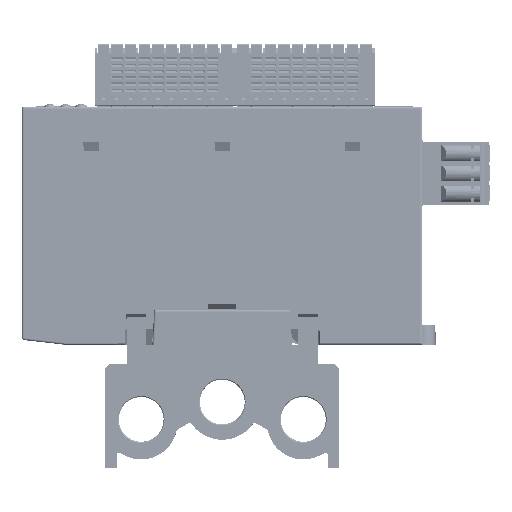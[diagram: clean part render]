
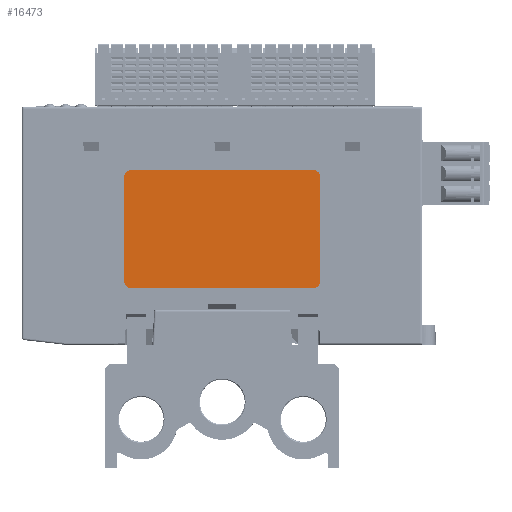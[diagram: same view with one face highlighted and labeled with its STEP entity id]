
A CAD part, front view. The second image highlights one B-rep face of the part: STEP entity #16473.
In plain terms, the highlighted planar face has unit normal (0, -1, 0).
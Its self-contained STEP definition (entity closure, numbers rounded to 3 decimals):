
#7099=FACE_OUTER_BOUND('',#71025,.T.);
#16473=ADVANCED_FACE('',(#7099),#26008,.F.);
#26008=PLANE('',#180112);
#33674=LINE('',#251505,#51693);
#33678=LINE('',#251513,#51697);
#33680=LINE('',#251517,#51699);
#33683=LINE('',#251525,#51702);
#51693=VECTOR('',#198042,1.);
#51697=VECTOR('',#198048,1.);
#51699=VECTOR('',#198052,1.);
#51702=VECTOR('',#198059,1.);
#71025=EDGE_LOOP('',(#84706,#84707,#84708,#84709,#84710,#84711,#84712,#84713));
#84706=ORIENTED_EDGE('',*,*,#151155,.F.);
#84707=ORIENTED_EDGE('',*,*,#151160,.T.);
#84708=ORIENTED_EDGE('',*,*,#151161,.F.);
#84709=ORIENTED_EDGE('',*,*,#151162,.T.);
#84710=ORIENTED_EDGE('',*,*,#151157,.F.);
#84711=ORIENTED_EDGE('',*,*,#151163,.T.);
#84712=ORIENTED_EDGE('',*,*,#151151,.F.);
#84713=ORIENTED_EDGE('',*,*,#151164,.T.);
#133974=VERTEX_POINT('',#251506);
#133975=VERTEX_POINT('',#251507);
#133976=VERTEX_POINT('',#251512);
#133977=VERTEX_POINT('',#251514);
#133978=VERTEX_POINT('',#251518);
#133979=VERTEX_POINT('',#251519);
#133980=VERTEX_POINT('',#251524);
#133981=VERTEX_POINT('',#251526);
#151151=EDGE_CURVE('',#133974,#133975,#33674,.T.);
#151155=EDGE_CURVE('',#133976,#133977,#33678,.T.);
#151157=EDGE_CURVE('',#133978,#133979,#33680,.T.);
#151160=EDGE_CURVE('',#133976,#133980,#174613,.T.);
#151161=EDGE_CURVE('',#133981,#133980,#33683,.T.);
#151162=EDGE_CURVE('',#133981,#133979,#174614,.T.);
#151163=EDGE_CURVE('',#133978,#133975,#174615,.T.);
#151164=EDGE_CURVE('',#133974,#133977,#174616,.T.);
#174613=CIRCLE('',#180108,1.8);
#174614=CIRCLE('',#180109,1.8);
#174615=CIRCLE('',#180110,1.8);
#174616=CIRCLE('',#180111,1.8);
#180108=AXIS2_PLACEMENT_3D('',#251523,#198057,#198058);
#180109=AXIS2_PLACEMENT_3D('',#251527,#198060,#198061);
#180110=AXIS2_PLACEMENT_3D('',#251528,#198062,#198063);
#180111=AXIS2_PLACEMENT_3D('',#251529,#198064,#198065);
#180112=AXIS2_PLACEMENT_3D('',#251530,#198066,#198067);
#198042=DIRECTION('',(0.,0.,-1.));
#198048=DIRECTION('',(1.,0.,0.));
#198052=DIRECTION('',(-1.,0.,0.));
#198057=DIRECTION('',(0.,-1.,0.));
#198058=DIRECTION('',(0.,0.,1.));
#198059=DIRECTION('',(0.,0.,1.));
#198060=DIRECTION('',(0.,-1.,0.));
#198061=DIRECTION('',(0.,0.,-1.));
#198062=DIRECTION('',(0.,-1.,0.));
#198063=DIRECTION('',(0.,0.,-1.));
#198064=DIRECTION('',(0.,-1.,0.));
#198065=DIRECTION('',(0.,0.,-1.));
#198066=DIRECTION('',(0.,1.,0.));
#198067=DIRECTION('',(0.,0.,-1.));
#251505=CARTESIAN_POINT('',(525.15,597.86,34.634));
#251506=CARTESIAN_POINT('',(525.15,597.86,47.934));
#251507=CARTESIAN_POINT('',(525.15,597.86,21.334));
#251512=CARTESIAN_POINT('',(476.75,597.86,49.734));
#251513=CARTESIAN_POINT('',(500.05,597.86,49.734));
#251514=CARTESIAN_POINT('',(523.35,597.86,49.734));
#251517=CARTESIAN_POINT('',(475.05,597.86,19.534));
#251518=CARTESIAN_POINT('',(523.35,597.86,19.534));
#251519=CARTESIAN_POINT('',(476.75,597.86,19.534));
#251523=CARTESIAN_POINT('',(476.75,597.86,47.934));
#251524=CARTESIAN_POINT('',(474.95,597.86,47.934));
#251525=CARTESIAN_POINT('',(474.95,597.86,34.634));
#251526=CARTESIAN_POINT('',(474.95,597.86,21.334));
#251527=CARTESIAN_POINT('',(476.75,597.86,21.334));
#251528=CARTESIAN_POINT('',(523.35,597.86,21.334));
#251529=CARTESIAN_POINT('',(523.35,597.86,47.934));
#251530=CARTESIAN_POINT('',(500.041,597.86,23.341));
